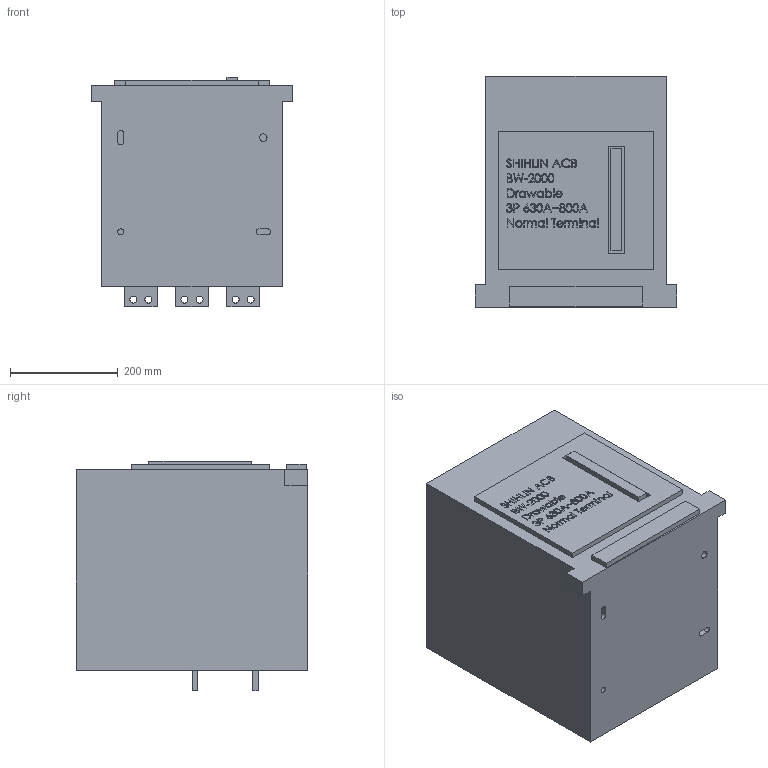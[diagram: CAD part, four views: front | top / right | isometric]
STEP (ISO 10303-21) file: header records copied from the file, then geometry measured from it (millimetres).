
FILE_DESCRIPTION (( 'STEP AP203' ), '1' );
FILE_NAME ('BW-2000-Drawout-3P-630-800A-Normal Terminal.STEP', '2016-11-03T01:04:40', ( '' ), ( '' ), 'SwSTEP 2.0', 'SolidWorks 2015', '' );
FILE_SCHEMA (( 'CONFIG_CONTROL_DESIGN' ));
Length unit declared in the file: millimetre
Products named in the file (1): BW-2000-Drawout-3P-630-800A-Normal Terminal
Bounding box: 375 x 430 x 426 mm (x, y, z)
Volume: 54796351.3 mm3; surface area: 928407.8 mm2
Topology: 1 solids, 1 shells, 749 faces, 1968 edges, 1312 vertices
Faces by surface type: plane 424, bspline 292, cylinder 33
Entity records: 38861 total; most frequent: CARTESIAN_POINT 22162, ORIENTED_EDGE 3936, DIRECTION 2366, EDGE_CURVE 1968, VECTOR 1318, LINE 1318, VERTEX_POINT 1312, EDGE_LOOP 864
